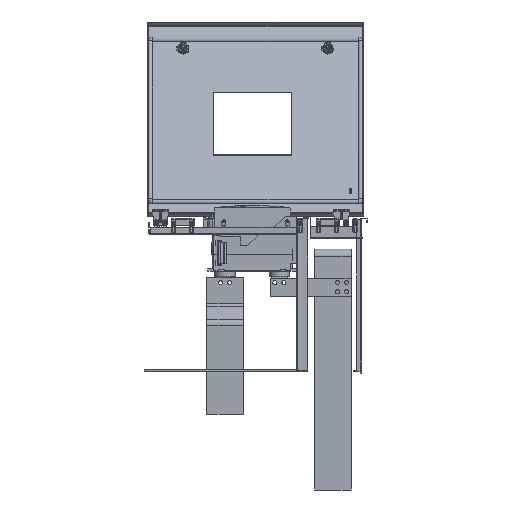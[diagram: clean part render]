
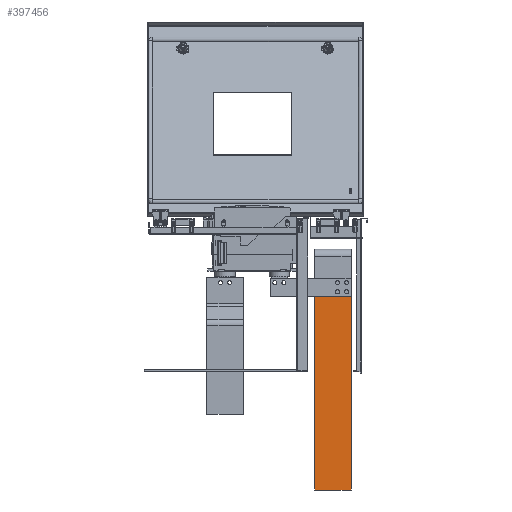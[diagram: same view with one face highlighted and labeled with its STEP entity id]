
A CAD part, left-side view. The second image highlights one B-rep face of the part: STEP entity #397456.
In plain terms, the highlighted planar face has unit normal (-1, 0, 0).
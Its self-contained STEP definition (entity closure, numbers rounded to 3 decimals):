
#396966=CARTESIAN_POINT(' ',(-5.,50.,0.));
#396971=DIRECTION(' ',(0.,-1.,0.));
#396976=VECTOR(' ',#396971,1.);
#396981=LINE('',#396966,#396976);
#396986=CARTESIAN_POINT(' ',(-5.,50.,0.));
#396987=VERTEX_POINT(' ',#396986);
#396991=CARTESIAN_POINT(' ',(-5.,-50.,0.));
#396992=VERTEX_POINT(' ',#396991);
#396996=EDGE_CURVE(' ',#396987,#396992,#396981,.T.);
#397116=CARTESIAN_POINT(' ',(-5.,50.,585.));
#397121=DIRECTION(' ',(0.,0.,-1.));
#397126=VECTOR(' ',#397121,1.);
#397131=LINE('',#397116,#397126);
#397136=CARTESIAN_POINT(' ',(-5.,50.,585.));
#397137=VERTEX_POINT(' ',#397136);
#397141=EDGE_CURVE(' ',#397137,#396987,#397131,.T.);
#397226=CARTESIAN_POINT(' ',(-5.,50.,585.));
#397231=DIRECTION(' ',(0.,-1.,0.));
#397236=VECTOR(' ',#397231,1.);
#397241=LINE('',#397226,#397236);
#397246=CARTESIAN_POINT(' ',(-5.,-50.,585.));
#397247=VERTEX_POINT(' ',#397246);
#397251=EDGE_CURVE(' ',#397137,#397247,#397241,.T.);
#397356=CARTESIAN_POINT(' ',(-5.,-50.,585.));
#397361=DIRECTION(' ',(0.,0.,-1.));
#397366=VECTOR(' ',#397361,1.);
#397371=LINE('',#397356,#397366);
#397376=EDGE_CURVE(' ',#397247,#396992,#397371,.T.);
#397401=DIRECTION(' ',(-1.,0.,0.));
#397406=CARTESIAN_POINT(' ',(-5.,-50.,0.));
#397411=DIRECTION(' ',(0.,0.,1.));
#397416=AXIS2_PLACEMENT_3D(' ',#397406,#397401,#397411);
#397421=PLANE('NONE',#397416);
#397426=ORIENTED_EDGE(' ',*,*,#396996,.T.);
#397431=ORIENTED_EDGE(' ',*,*,#397376,.F.);
#397436=ORIENTED_EDGE(' ',*,*,#397251,.F.);
#397441=ORIENTED_EDGE(' ',*,*,#397141,.T.);
#397446=EDGE_LOOP(' ',(#397426,#397431,#397436,#397441));
#397451=FACE_OUTER_BOUND(' ',#397446,.T.);
#397456=ADVANCED_FACE('NONE',(#397451),#397421,.T.);
